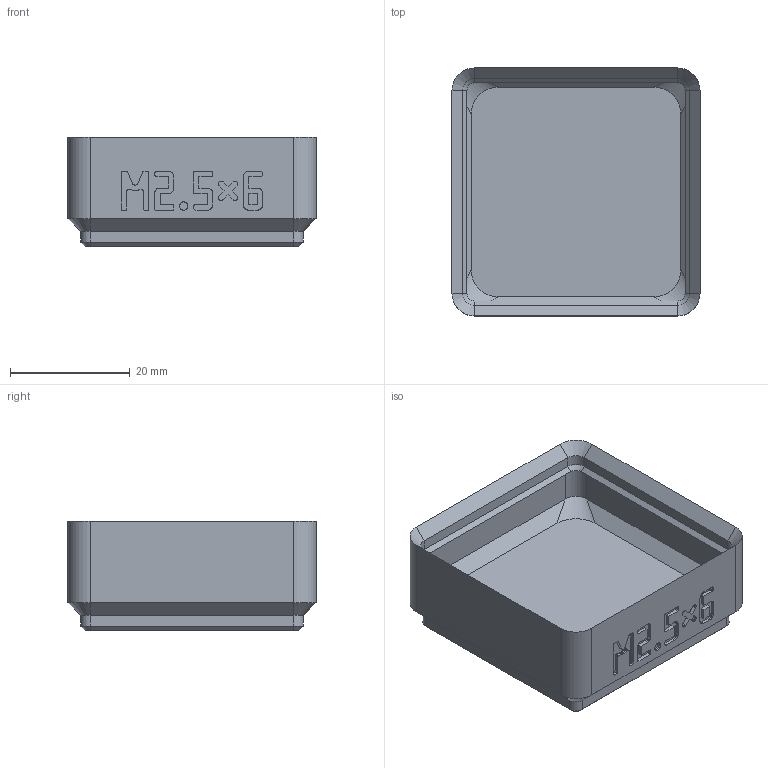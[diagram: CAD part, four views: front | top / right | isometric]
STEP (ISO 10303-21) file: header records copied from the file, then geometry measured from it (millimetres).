
FILE_DESCRIPTION(('Open CASCADE Model'),'2;1');
FILE_NAME('bin_m2_5x6','2026-11-03T16:47:30',('Author'),('Open CASCADE') ,'Open CASCADE STEP processor 8.0','build123d','Unknown');
FILE_SCHEMA(('AUTOMOTIVE_DESIGN { 1 0 10303 214 1 1 1 1 }'));
Length unit declared in the file: millimetre
Products named in the file (1): bin_m2_5x6
Bounding box: 41.5 x 41.5 x 18.4 mm (x, y, z)
Volume: 10993.7 mm3; surface area: 8298.2 mm2
Topology: 1 solids, 1 shells, 679 faces, 1927 edges, 1266 vertices
Faces by surface type: plane 631, cylinder 24, cone 16, bspline 8
Full cylindrical faces by diameter (mm): 3.2 x4, 6.5 x4
Entity records: 45356 total; most frequent: CARTESIAN_POINT 9157, DIRECTION 5855, LINE 4363, VECTOR 4363, ORIENTED_EDGE 3854, PCURVE 3854, DEFINITIONAL_REPRESENTATION 3854, EDGE_CURVE 1927
